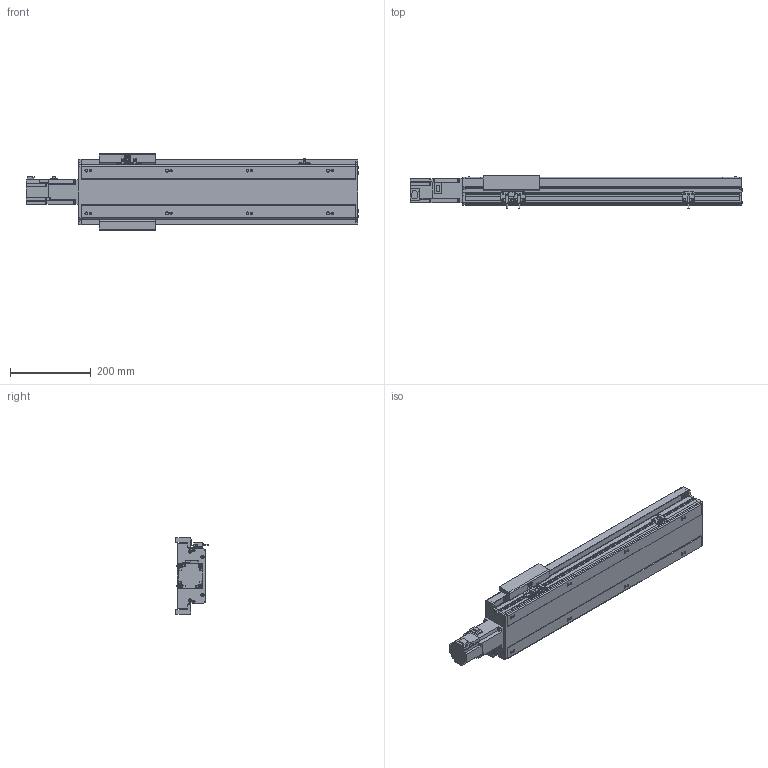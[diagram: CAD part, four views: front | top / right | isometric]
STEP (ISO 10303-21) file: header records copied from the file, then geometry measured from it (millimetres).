
FILE_DESCRIPTION(/* description */ ('STEP AP214'),/* implementation_level */ '2;1');
FILE_NAME(/* name */ 'PSM140-L10-S450-BC-T40-C1-N(0)',/* time_stamp */ '2022-06-13T03:19:16+02:00',/* author */ ('License CC BY-ND 4.0'),/* organization */ ('CADENAS'),/* preprocessor_version */ 'ST-DEVELOPER v18.102',/* originating_system */ 'PARTsolutions',/* authorisation */ ' ');
FILE_SCHEMA (('FEATURE_BASED_PROCESS_PLANNING','INTEGRATED_CNC_SCHEMA','MODEL_BASED_INTEGRATED_MANUFACTURING_SCHEMA','PROCESS_PLANNING_SCHEMA','AUTOMOTIVE_DESIGN {1 0 10303 214 3 1 1}'));
Length unit declared in the file: millimetre
Products named in the file (7): PSM140-L10-S450-BC-T40-C1-N(0); PSM-Sensor; PSM140-S450-692.5; T40-p1; PSM140_body3; PSM140-S450_body1; PSM140-L10-S450-BC-T40-C1-N(0)_dummy
Assembly tree (10 placements, depth 2):
  PSM140-L10-S450-BC-T40-C1-N(0)
    PSM-Sensor  x3
    PSM140-S450-692.5  x3
    T40-p1
    PSM140_body3
    PSM140-S450_body1
    PSM140-L10-S450-BC-T40-C1-N(0)_dummy
Bounding box: 823.7 x 81.3 x 190 mm (x, y, z)
Volume: 3612957.2 mm3; surface area: 763766.2 mm2
Topology: 9 solids, 9 shells, 928 faces, 2449 edges, 1592 vertices
Faces by surface type: plane 620, cylinder 242, cone 52, torus 14
Full cylindrical faces by diameter (mm): 2.8 x3, 4.5 x12, 4.6 x3, 4.917 x16, 5.5 x7, 5.7 x6, 6 x2, 7 x16, 8 x8, 8.5 x4, 10.5 x8, 14 x1, 50 x1
Entity records: 23583 total; most frequent: CARTESIAN_POINT 4180, DIRECTION 3993, ORIENTED_EDGE 3770, EDGE_CURVE 1885, LINE 1347, VECTOR 1347, AXIS2_PLACEMENT_3D 1323, VERTEX_POINT 1314
